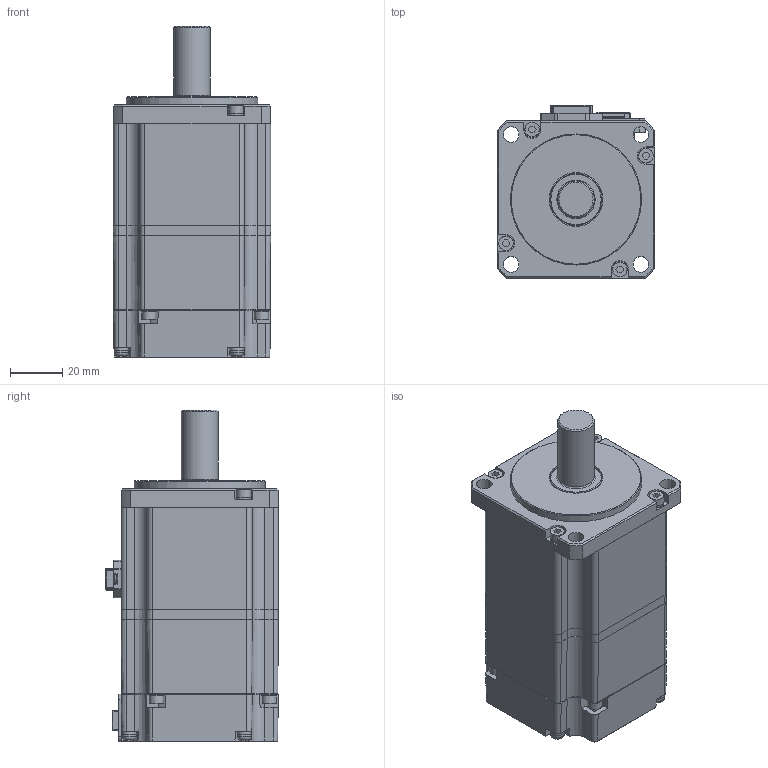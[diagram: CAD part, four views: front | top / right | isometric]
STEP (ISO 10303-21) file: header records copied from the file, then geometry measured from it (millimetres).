
FILE_DESCRIPTION (( 'STEP AP214' ), '1' );
FILE_NAME ('EM06GA004G02_Out Line(APM-EB02AM3N2).STEP', '2022-11-10T03:04:17', ( '' ), ( '' ), 'SwSTEP 2.0', 'SolidWorks 2021', '' );
FILE_SCHEMA (( 'AUTOMOTIVE_DESIGN' ));
Length unit declared in the file: millimetre
Products named in the file (1): EM06GA004G02_Out Line(APM-EB02AM3N2)
Bounding box: 60 x 65.9 x 126.5 mm (x, y, z)
Volume: 319097.6 mm3; surface area: 68899.6 mm2
Topology: 34 solids, 34 shells, 1555 faces, 3907 edges, 2487 vertices
Faces by surface type: plane 1117, cylinder 236, cone 139, torus 31, bspline 18, sphere 14
Full cylindrical faces by diameter (mm): 1.6 x10, 2 x2, 2.1 x2, 2.5 x16, 3 x16, 3.1 x8, 3.5 x4, 5.4 x8, 5.5 x8, 5.6 x8, 14 x1, 19.8 x1, 20.5 x1, 50 x1
Entity records: 63157 total; most frequent: CARTESIAN_POINT 9356, ORIENTED_EDGE 7424, DIRECTION 7193, EDGE_CURVE 3712, LINE 2753, VECTOR 2753, VERTEX_POINT 2436, AXIS2_PLACEMENT_3D 2220
